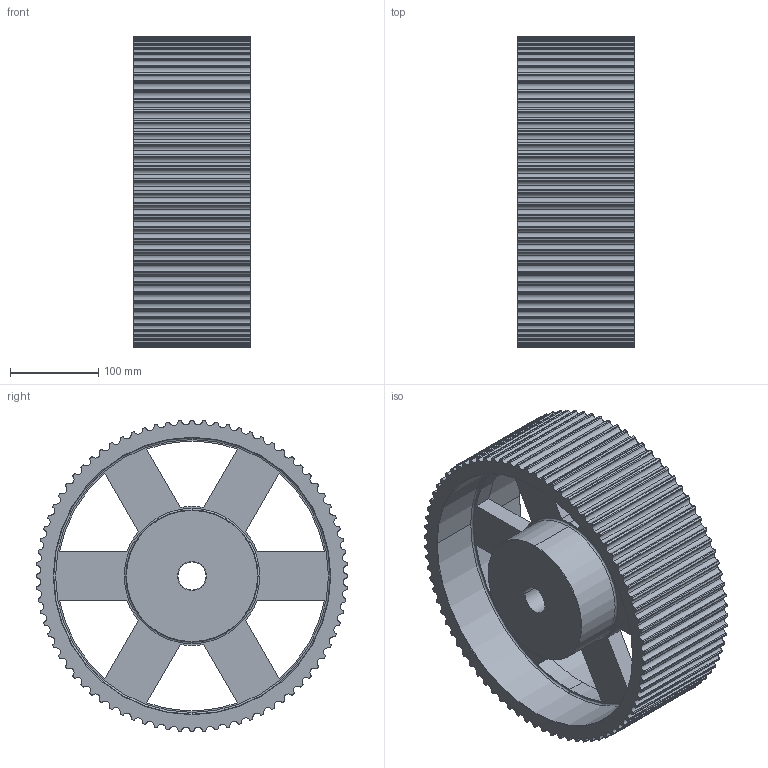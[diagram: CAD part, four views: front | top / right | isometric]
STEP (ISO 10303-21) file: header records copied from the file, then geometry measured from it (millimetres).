
FILE_DESCRIPTION(('STEP AP203'),'1');
FILE_NAME('80_-_14_m_115.stp','2019-06-21T07:19:10',('TraceParts'),('TraceParts S.A.'),'Spatial InterOp 3D',' ',' ');
FILE_SCHEMA(('CONFIG_CONTROL_DESIGN'));
Length unit declared in the file: millimetre
Products named in the file (1): 1
Bounding box: 133 x 353.71 x 353.71 mm (x, y, z)
Volume: 5235769.3 mm3; surface area: 536271.5 mm2
Topology: 1 solids, 1 shells, 464 faces, 1362 edges, 904 vertices
Faces by surface type: cylinder 426, plane 18, cone 12, torus 8
Entity records: 16030 total; most frequent: DIRECTION 3180, CARTESIAN_POINT 2731, ORIENTED_EDGE 2724, EDGE_CURVE 1362, AXIS2_PLACEMENT_3D 1353, VERTEX_POINT 904, CIRCLE 888, EDGE_LOOP 482
